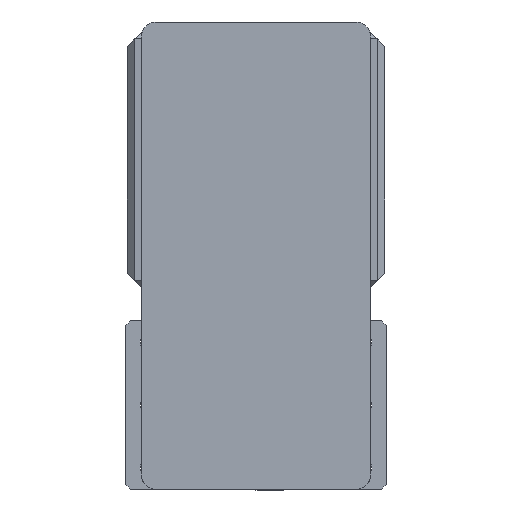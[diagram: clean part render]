
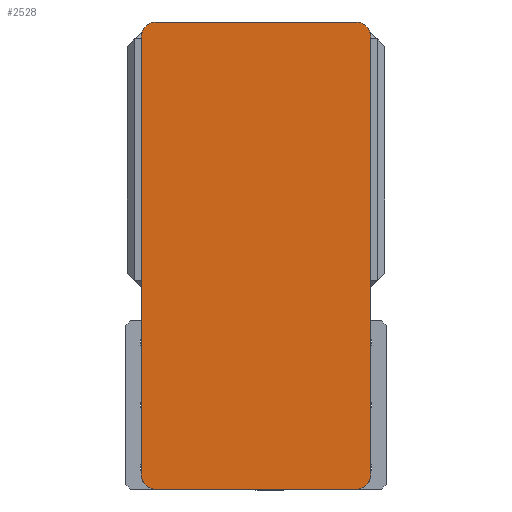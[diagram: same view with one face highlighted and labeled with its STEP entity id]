
A CAD part, left-side view. The second image highlights one B-rep face of the part: STEP entity #2528.
In plain terms, the highlighted planar face has unit normal (-1, 0, 0) as drawn and (0, 0, 1) by its records, which use the part's own axes.
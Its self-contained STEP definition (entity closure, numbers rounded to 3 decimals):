
#48 = ORIENTED_EDGE ( 'NONE', *, *, #1582, .T. ) ;
#321 = DIRECTION ( 'NONE',  ( 0., -1., 0. ) ) ;
#401 = CARTESIAN_POINT ( 'NONE',  ( 75., -142.5, 105. ) ) ;
#484 = CIRCLE ( 'NONE', #10956, 10. ) ;
#531 = VECTOR ( 'NONE', #321, 1000. ) ;
#946 = EDGE_CURVE ( 'NONE', #11420, #10748, #11170, .T. ) ;
#1028 = CARTESIAN_POINT ( 'NONE',  ( -75., 152.5, 105. ) ) ;
#1051 = EDGE_CURVE ( 'NONE', #10562, #6656, #7497, .T. ) ;
#1107 = ORIENTED_EDGE ( 'NONE', *, *, #1523, .T. ) ;
#1289 = EDGE_CURVE ( 'NONE', #9728, #8966, #9955, .T. ) ;
#1414 = EDGE_CURVE ( 'NONE', #9130, #3483, #11155, .T. ) ;
#1442 = CARTESIAN_POINT ( 'NONE',  ( -65., -142.5, 105. ) ) ;
#1501 = EDGE_CURVE ( 'NONE', #3483, #11420, #484, .T. ) ;
#1523 = EDGE_CURVE ( 'NONE', #10748, #10562, #4981, .T. ) ;
#1582 = EDGE_CURVE ( 'NONE', #6656, #9728, #8811, .T. ) ;
#1989 = CARTESIAN_POINT ( 'NONE',  ( -65., 152.5, 105. ) ) ;
#2360 = DIRECTION ( 'NONE',  ( 1., 0., 0. ) ) ;
#2426 = ORIENTED_EDGE ( 'NONE', *, *, #1051, .T. ) ;
#2528 = ADVANCED_FACE ( 'NONE', ( #8246 ), #3403, .T. ) ;
#2663 = CARTESIAN_POINT ( 'NONE',  ( 65., 142.5, 105. ) ) ;
#2739 = DIRECTION ( 'NONE',  ( 0., 0., 1. ) ) ;
#3403 = PLANE ( 'NONE',  #6503 ) ;
#3483 = VERTEX_POINT ( 'NONE', #10549 ) ;
#3580 = EDGE_LOOP ( 'NONE', ( #4073, #10696, #7332, #1107, #2426, #48, #8773, #4528 ) ) ;
#3726 = CARTESIAN_POINT ( 'NONE',  ( -75., -152.5, 105. ) ) ;
#3749 = DIRECTION ( 'NONE',  ( 1., 0., 0. ) ) ;
#3808 = CIRCLE ( 'NONE', #10839, 10. ) ;
#3846 = DIRECTION ( 'NONE',  ( 0., 0., 1. ) ) ;
#3884 = CARTESIAN_POINT ( 'NONE',  ( -65., 142.5, 105. ) ) ;
#3946 = VECTOR ( 'NONE', #9912, 1000. ) ;
#4073 = ORIENTED_EDGE ( 'NONE', *, *, #1414, .T. ) ;
#4131 = CARTESIAN_POINT ( 'NONE',  ( -65., -152.5, 105. ) ) ;
#4205 = DIRECTION ( 'NONE',  ( 1., 0., 0. ) ) ;
#4217 = VECTOR ( 'NONE', #4692, 1000. ) ;
#4364 = DIRECTION ( 'NONE',  ( 0., 0., 1. ) ) ;
#4528 = ORIENTED_EDGE ( 'NONE', *, *, #10664, .T. ) ;
#4660 = CARTESIAN_POINT ( 'NONE',  ( 65., 152.5, 105. ) ) ;
#4692 = DIRECTION ( 'NONE',  ( 1., 0., 0. ) ) ;
#4981 = CIRCLE ( 'NONE', #10604, 10. ) ;
#6503 = AXIS2_PLACEMENT_3D ( 'NONE', #7838, #4364, #10459 ) ;
#6656 = VERTEX_POINT ( 'NONE', #1989 ) ;
#7153 = DIRECTION ( 'NONE',  ( -1., 0., 0. ) ) ;
#7332 = ORIENTED_EDGE ( 'NONE', *, *, #946, .T. ) ;
#7497 = LINE ( 'NONE', #8060, #9560 ) ;
#7642 = DIRECTION ( 'NONE',  ( 0., 0., 1. ) ) ;
#7828 = CARTESIAN_POINT ( 'NONE',  ( -75., 142.5, 105. ) ) ;
#7838 = CARTESIAN_POINT ( 'NONE',  ( 0., 0., 105. ) ) ;
#8060 = CARTESIAN_POINT ( 'NONE',  ( -75., 152.5, 105. ) ) ;
#8246 = FACE_OUTER_BOUND ( 'NONE', #3580, .T. ) ;
#8344 = CARTESIAN_POINT ( 'NONE',  ( -75., -142.5, 105. ) ) ;
#8773 = ORIENTED_EDGE ( 'NONE', *, *, #1289, .T. ) ;
#8811 = CIRCLE ( 'NONE', #10452, 10. ) ;
#8819 = CARTESIAN_POINT ( 'NONE',  ( 65., -142.5, 105. ) ) ;
#8862 = DIRECTION ( 'NONE',  ( 0., 0., 1. ) ) ;
#8899 = DIRECTION ( 'NONE',  ( 1., 0., 0. ) ) ;
#8966 = VERTEX_POINT ( 'NONE', #8344 ) ;
#9044 = CARTESIAN_POINT ( 'NONE',  ( 75., 152.5, 105. ) ) ;
#9130 = VERTEX_POINT ( 'NONE', #4131 ) ;
#9560 = VECTOR ( 'NONE', #7153, 1000. ) ;
#9728 = VERTEX_POINT ( 'NONE', #7828 ) ;
#9912 = DIRECTION ( 'NONE',  ( 0., 1., 0. ) ) ;
#9955 = LINE ( 'NONE', #1028, #531 ) ;
#10452 = AXIS2_PLACEMENT_3D ( 'NONE', #3884, #3846, #4205 ) ;
#10459 = DIRECTION ( 'NONE',  ( 1., 0., 0. ) ) ;
#10549 = CARTESIAN_POINT ( 'NONE',  ( 65., -152.5, 105. ) ) ;
#10562 = VERTEX_POINT ( 'NONE', #4660 ) ;
#10604 = AXIS2_PLACEMENT_3D ( 'NONE', #2663, #2739, #3749 ) ;
#10664 = EDGE_CURVE ( 'NONE', #8966, #9130, #3808, .T. ) ;
#10696 = ORIENTED_EDGE ( 'NONE', *, *, #1501, .T. ) ;
#10748 = VERTEX_POINT ( 'NONE', #11171 ) ;
#10839 = AXIS2_PLACEMENT_3D ( 'NONE', #1442, #7642, #2360 ) ;
#10956 = AXIS2_PLACEMENT_3D ( 'NONE', #8819, #8862, #8899 ) ;
#11155 = LINE ( 'NONE', #3726, #4217 ) ;
#11170 = LINE ( 'NONE', #9044, #3946 ) ;
#11171 = CARTESIAN_POINT ( 'NONE',  ( 75., 142.5, 105. ) ) ;
#11420 = VERTEX_POINT ( 'NONE', #401 ) ;
